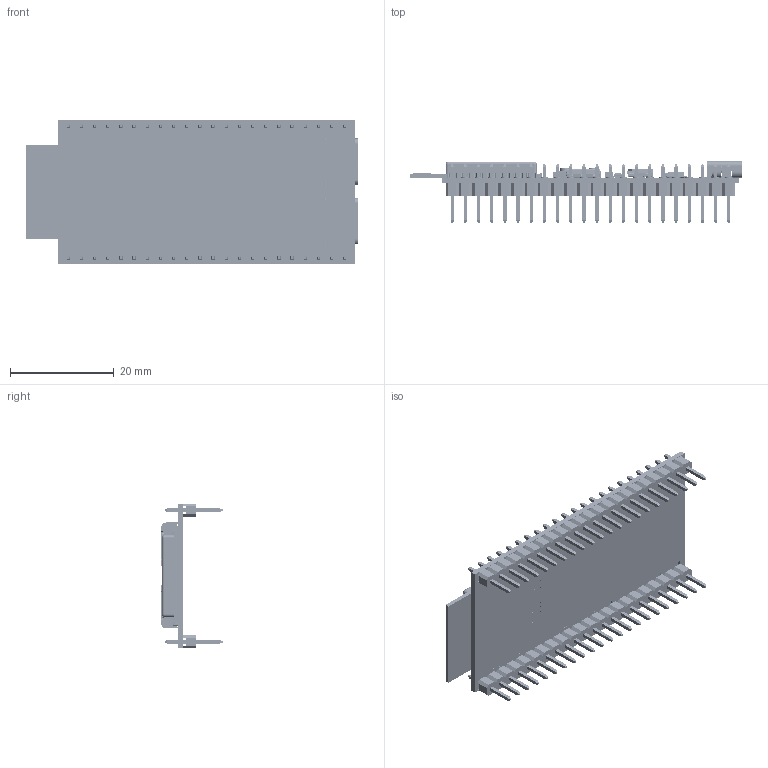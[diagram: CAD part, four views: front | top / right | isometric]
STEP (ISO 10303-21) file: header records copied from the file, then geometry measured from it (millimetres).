
FILE_DESCRIPTION(/* description */ (''),/* implementation_level */ '2;1');
FILE_NAME(/* name */ 'YD-ESP32-S3 v34.step',/* time_stamp */ '2023-12-28T19:41:12Z',/* author */ (''),/* organization */ (''),/* preprocessor_version */ 'ST-DEVELOPER v20',/* originating_system */ 'Autodesk Translation Framework v12.14.0.127',/* authorisation */ '');
FILE_SCHEMA (('AUTOMOTIVE_DESIGN { 1 0 10303 214 3 1 1 }'));
Products named in the file (109): YD-ESP32-S3; PCB; ESP32-S3-WROOM; ESP32-S3-WROOM_shell v11; ESP32-S3-WROOM_body v12; ESP-S3-WROOM_via v3(镜像); ESP-S3-WROOM_via v3; USB Connector Type C female 6pin; C0402_035; C0402_035_1; C0402_035_2; C0402_035_3; R0402_detailed; R0402_detailed_1; R0402_detailed_2; R0402_detailed_3; R0402_detailed_4; R0402_detailed_5; R0402_detailed_6; R0402_detailed_7; DO220AA; QFN-16 (4x4x0.9); QFN-16 (4x4x0.9)_1; Part 12; Part 11; Part 13; Part 14; Part 18; Part 17; Part 15; Part 16; Part 10; Part 9; Part 7; Part 8; Part 6; Part 5; Part 3; Part 4; Part 2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
Assembly tree (227 placements, depth 4):
  YD-ESP32-S3
    PCB
    ESP32-S3-WROOM
      ESP-S3-WROOM_via v3  x26
      ESP32-S3-WROOM_shell v11
      ESP32-S3-WROOM_body v12
      ESP-S3-WROOM_via v3(镜像)  x14
    USB Connector Type C female 6pin  x2
    C0402_035
      C0402_035_1
        Part 3_3
        Part 2_3
        Part 1_3
    C0402_035_2
      C0402_035_3
        Part 3_3
        Part 2_3
        Part 1_3
    R0402_detailed
      R0402_detailed_1
        Part 6_1
        Part 5_1
        Part 4_1
        Part 3_2
        Part 2_2
        Part 1_2
    R0402_detailed_2
      R0402_detailed_3
        Part 6_1
        Part 5_1
        Part 4_1
        Part 3_2
        Part 2_2
        Part 1_2
    R0402_detailed_4
      R0402_detailed_5
        Part 6_1
        Part 5_1
        Part 4_1
        Part 3_2
        Part 2_2
        Part 1_2
    R0402_detailed_6
      R0402_detailed_7
        Part 6_1
        Part 5_1
        Part 4_1
        Part 3_2
        Part 2_2
        Part 1_2
    DO220AA  x3
    QFN-16 (4x4x0.9)
      QFN-16 (4x4x0.9)_1
        Part 12
        Part 11
        Part 13
        Part 14
        Part 18
        Part 17
        Part 15
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Bounding box: 64.02 x 11.91 x 27.95 mm (x, y, z)
Volume: 3280.6 mm3; surface area: 10473.3 mm2
Topology: 408 solids, 448 shells, 12063 faces, 31647 edges, 20714 vertices
Faces by surface type: plane 6694, bspline 4094, cylinder 1147, sphere 100, torus 22, cone 6
Full cylindrical faces by diameter (mm): 0.36 x1, 0.4 x6, 0.5 x3, 0.55 x1, 1 x45, 1.1 x44, 1.5 x42, 1.778 x2
Entity records: 325506 total; most frequent: CARTESIAN_POINT 123052, ORIENTED_EDGE 47664, DIRECTION 28051, EDGE_CURVE 23832, VERTEX_POINT 15720, LINE 14629, VECTOR 14629, EDGE_LOOP 9702
